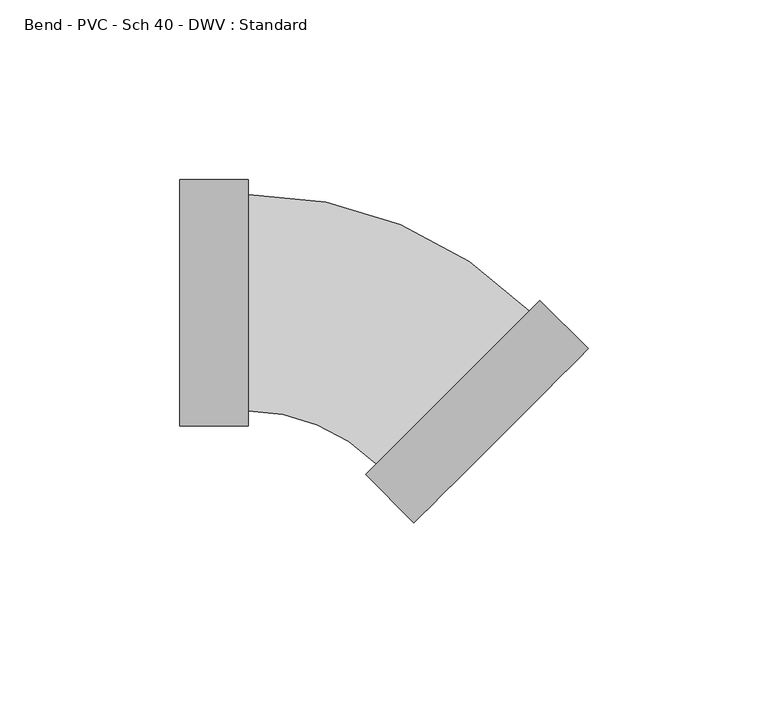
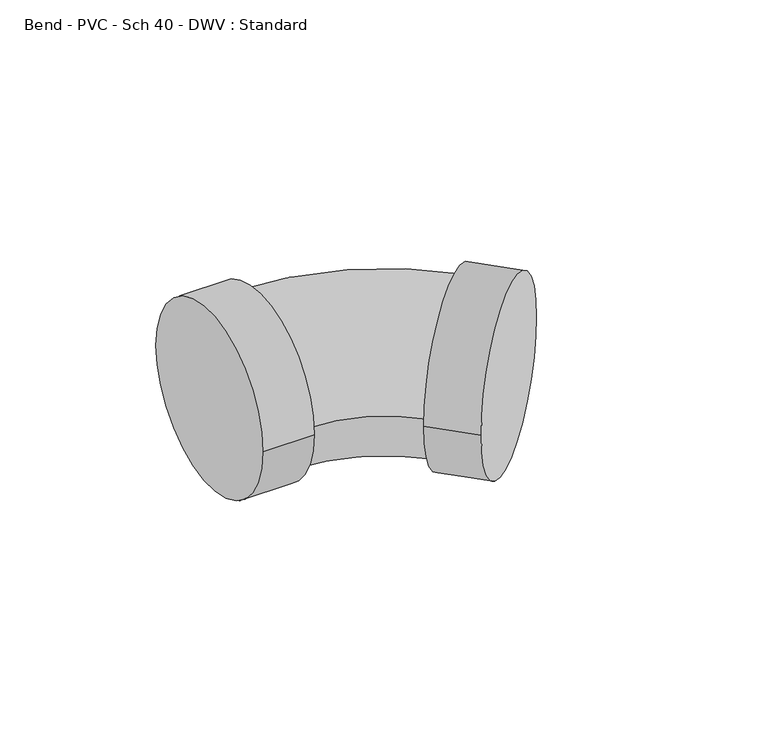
"""IFC4 building model written with IfcOpenShell, lengths in millimetres: pipe fitting geometry, Bend - PVC - Sch 40 - DWV : Standard."""

from ifc_helpers import new_model, si_unit, point, frame, origin, place, context, project, spatial, circle_curve, ellipse_curve, trimmed, source, transform, mapped, element, save
from ifc_brep_helpers import plane_surface, cylinder_surface, revolved_surface, advanced_brep


def bend_pvc_sch_40_dwv_standard_1a41d59f(model_context):
    return source(origin(), model_context, "Body", "AdvancedBrep", [
        advanced_brep(
        [(-52.4002, 34.3154, 0.0), (-52.4002, -34.3154, 0.0), (-33.3502, 34.3154, 0.0), (-33.3502, -34.3154, 0.0), (-33.3502, 30.1625, 0.0), (-33.3502, -30.1625, 0.0), (2.2522186, -44.9103525, 0.0), (44.9101692, -2.25587, 0.0), (47.8468323, 0.6805544, 0.0), (-0.6844445, -47.8467768, 0.0), (61.3166689, -12.7903774, 0.0), (12.785392, -61.3177086, 0.0)],
        [
            (0, 1, circle_curve(frame((-52.4002, 0.0, 0.0), z_axis=(-1.0, 0.0, 0.0), x_axis=(0.0, -1.0, 0.0)), 34.3154)),
            (1, 0, circle_curve(frame((-52.4002, 0.0, 0.0), z_axis=(-1.0, 0.0, 0.0), x_axis=(0.0, -1.0, 0.0)), 34.3154)),
            (2, 3, circle_curve(frame((-33.3502, 0.0, 0.0), z_axis=(1.0, 0.0, 0.0), x_axis=(0.0, -1.0, 0.0)), 34.3154)),
            (3, 2, circle_curve(frame((-33.3502, 0.0, 0.0), z_axis=(1.0, 0.0, 0.0), x_axis=(0.0, -1.0, 0.0)), 34.3154)),
            (4, 5, circle_curve(frame((-33.3502, 0.0, 0.0), z_axis=(-1.0, 0.0, 0.0), x_axis=(0.0, -1.0, 0.0)), 30.1625)),
            (5, 4, circle_curve(frame((-33.3502, 0.0, 0.0), z_axis=(-1.0, 0.0, 0.0), x_axis=(0.0, -1.0, 0.0)), 30.1625)),
            (1, 3),
            (2, 0),
            (6, 7, circle_curve(frame((23.5811939, -23.5831112, 0.0), z_axis=(-0.7070780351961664, 0.7071355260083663, 0.0), x_axis=(-0.7071355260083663, -0.7070780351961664, 0.0)), 30.1625)),
            (7, 4, circle_curve(frame((-33.3502, -80.5098765, 0.0), z_axis=(0.0, 0.0, 1.0), x_axis=(0.0, 1.0, 0.0)), 110.6723765)),
            (5, 6, circle_curve(frame((-33.3502, -80.5098765, 0.0), z_axis=(0.0, 0.0, -1.0), x_axis=(0.0, 1.0, 0.0)), 50.3473765)),
            (7, 6, circle_curve(frame((23.5811939, -23.5831112, 0.0), z_axis=(-0.7070780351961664, 0.7071355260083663, 0.0), x_axis=(-0.7071355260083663, -0.7070780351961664, 0.0)), 30.1625)),
            (8, 9, circle_curve(frame((23.5811939, -23.5831112, 0.0), z_axis=(-0.7070780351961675, 0.7071355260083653, 0.0), x_axis=(-0.7071355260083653, -0.7070780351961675, 0.0)), 34.3154)),
            (9, 8, circle_curve(frame((23.5811939, -23.5831112, 0.0), z_axis=(-0.7070780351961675, 0.7071355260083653, 0.0), x_axis=(-0.7071355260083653, -0.7070780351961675, 0.0)), 34.3154)),
            (10, 11, circle_curve(frame((37.0510305, -37.054043, 0.0), z_axis=(0.7070780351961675, -0.7071355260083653, 0.0), x_axis=(-0.7071355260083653, -0.7070780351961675, 0.0)), 34.3154)),
            (11, 10, circle_curve(frame((37.0510305, -37.054043, 0.0), z_axis=(0.7070780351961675, -0.7071355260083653, 0.0), x_axis=(-0.7071355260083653, -0.7070780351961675, 0.0)), 34.3154)),
            (9, 11),
            (10, 8),
        ],
        [
            plane_surface(frame((-52.4002, 0.0, 0.0), z_axis=(-1.0, 0.0, 0.0), x_axis=(0.0, 0.0, 1.0))),
            plane_surface(frame((-33.3502, 0.0, 0.0), z_axis=(1.0, 0.0, 0.0), x_axis=(0.0, 0.0, 1.0))),
            cylinder_surface(frame((-52.4002, 0.0, 0.0), z_axis=(-1.0, 0.0, 0.0), x_axis=(0.0, -1.0, 0.0)), 34.3154),
            revolved_surface(trimmed(ellipse_curve(frame((-33.3502, 0.0, 0.0), z_axis=(1.0, 0.0, 0.0), x_axis=(0.0, -1.0, 0.0)), 30.1625, 30.1625), [point((-33.3502, 30.1625, 0.0))], [point((-33.3502, -30.1625, 0.0))], True, "CARTESIAN"), (-33.3502, -80.5098765, 0.0), (0.0, 0.0, 1.0)),
            revolved_surface(trimmed(ellipse_curve(frame((-33.3502, 0.0, 0.0), z_axis=(1.0, 0.0, 0.0), x_axis=(0.0, -1.0, 0.0)), 30.1625, 30.1625), [point((-33.3502, -30.1625, 0.0))], [point((-33.3502, 30.1625, 0.0))], True, "CARTESIAN"), (-33.3502, -80.5098765, 0.0), (0.0, 0.0, 1.0)),
            plane_surface(frame((23.5811939, -23.5831112, 0.0), z_axis=(-0.7070780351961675, 0.7071355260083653, 0.0), x_axis=(0.0, 0.0, 1.0))),
            plane_surface(frame((37.0510305, -37.054043, 0.0), z_axis=(0.7070780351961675, -0.7071355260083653, 0.0), x_axis=(0.0, 0.0, 1.0))),
            cylinder_surface(frame((23.5811939, -23.5831112, 0.0), z_axis=(-0.7070780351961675, 0.7071355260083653, 0.0), x_axis=(-0.7071355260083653, -0.7070780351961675, 0.0)), 34.3154),
        ],
        [
            (0, [[1, 2]]),
            (1, [[3, 4], [5, 6]]),
            (2, [[7, -3, 8, -2]]),
            (2, [[-8, -4, -7, -1]]),
            (3, [[9, 10, -6, 11]]),
            (4, [[-5, -10, 12, -11]]),
            (5, [[13, 14], [-12, -9]]),
            (6, [[15, 16]]),
            (7, [[17, -15, 18, -14]]),
            (7, [[-18, -16, -17, -13]]),
        ],
    ),
    ])


if __name__ == "__main__":
    model = new_model("IFC4")
    model_context = context("Model", 3, world=origin())
    ifc_project = project(units=[si_unit("LENGTHUNIT", "METRE", prefix="MILLI")], contexts=[model_context])
    site = spatial("IfcSite", under=ifc_project)
    building = spatial("IfcBuilding", under=site)
    placement = place(None, origin())
    bend_pvc_sch_40_dwv_standard_shape = bend_pvc_sch_40_dwv_standard_1a41d59f(model_context)
    element("IfcPipeFitting", 1, ObjectType="Bend - PVC - Sch 40 - DWV : Standard", at=placement, inside=building, context=model_context, shape_type="MappedRepresentation", body=[
        mapped(bend_pvc_sch_40_dwv_standard_shape, transform((0.0, 0.0, 0.0), x_axis=(1.0, 0.0, 0.0), y_axis=(0.0, 1.0, 0.0), z_axis=(0.0, 0.0, 1.0))),
    ])
    save(model, "model.ifc")
